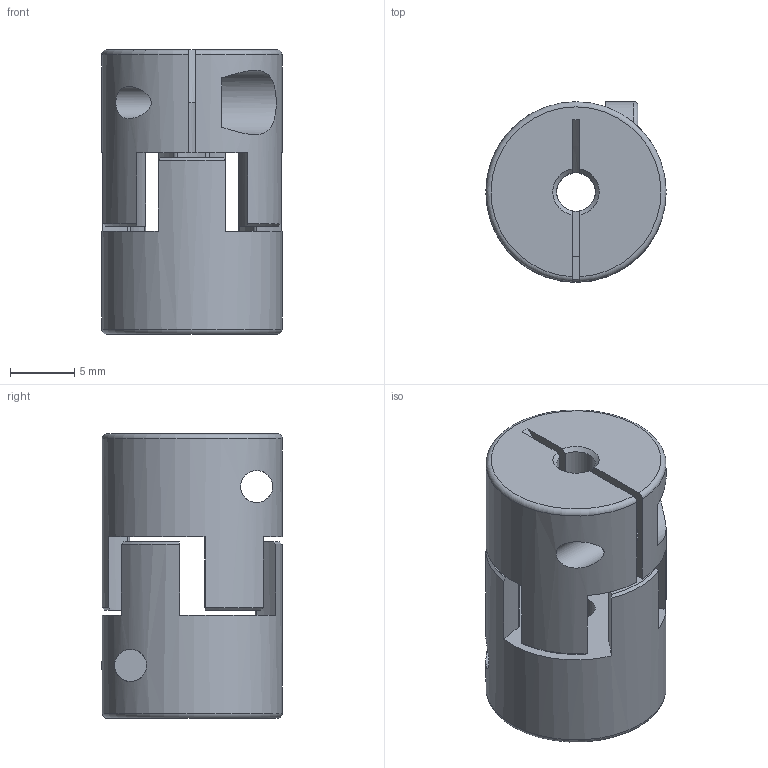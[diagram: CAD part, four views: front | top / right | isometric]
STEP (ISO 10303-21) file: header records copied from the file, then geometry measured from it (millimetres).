
FILE_DESCRIPTION(/* description */ (''),/* implementation_level */ '2;1');
FILE_NAME(/* name */ 'JQT meihua.stp',/* time_stamp */ '2025-02-06T11:32:02+08:00',/* author */ (''),/* organization */ (''),/* preprocessor_version */ 'ST-DEVELOPER v16',/* originating_system */ 'SIEMENS PLM Software NX 10.0',/* authorisation */ '');
FILE_SCHEMA (('AUTOMOTIVE_DESIGN { 1 0 10303 214 3 1 1 1 }'));
Length unit declared in the file: millimetre
Products named in the file (1): Admi0D407BA88op8
Bounding box: 14 x 14.04 x 22.1 mm (x, y, z)
Volume: 2442.1 mm3; surface area: 2244.1 mm2
Topology: 3 solids, 3 shells, 87 faces, 235 edges, 158 vertices
Faces by surface type: cylinder 42, plane 30, cone 12, torus 3
Full cylindrical faces by diameter (mm): 2.5 x3, 3 x2, 4.5 x1
Entity records: 3008 total; most frequent: CARTESIAN_POINT 755, DIRECTION 480, ORIENTED_EDGE 446, EDGE_CURVE 223, AXIS2_PLACEMENT_3D 200, VERTEX_POINT 153, CIRCLE 111, EDGE_LOOP 106
